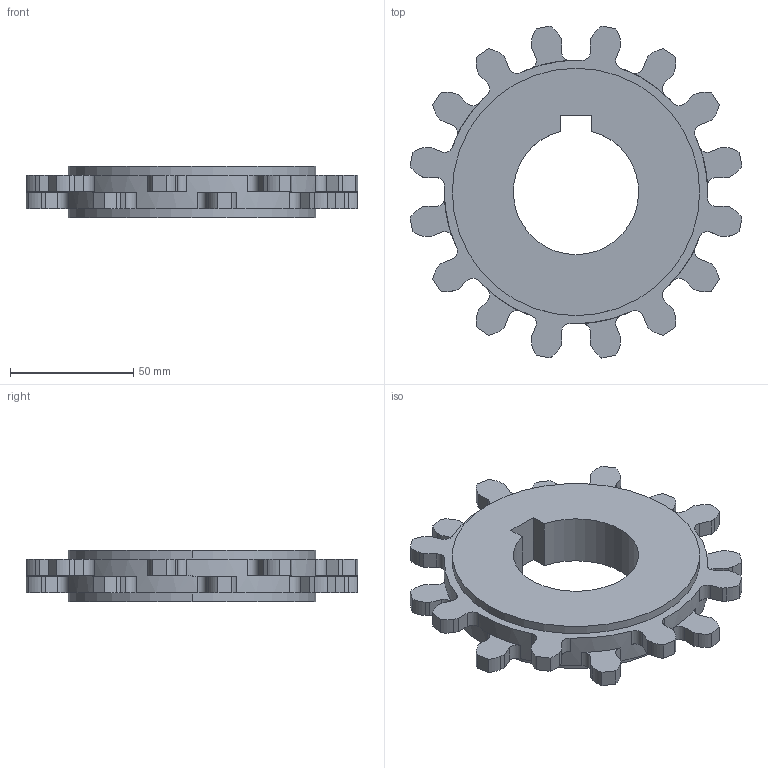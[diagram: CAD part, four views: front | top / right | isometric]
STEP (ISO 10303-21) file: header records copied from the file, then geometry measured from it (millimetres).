
FILE_DESCRIPTION((''),'2;1');
FILE_NAME('S2700_SPROCKET_52_RND','2008-12-12T',('jmumphre'),(''),'PRO/ENGINEER BY PARAMETRIC TECHNOLOGY CORPORATION, 2008150','PRO/ENGINEER BY PARAMETRIC TECHNOLOGY CORPORATION, 2008150','');
FILE_SCHEMA(('CONFIG_CONTROL_DESIGN'));
Length unit declared in the file: inch
Products named in the file (1): S2700_SPROCKET_52_RND
Bounding box: 134.6 x 134.6 x 20.83 mm (x, y, z)
Volume: 152295.8 mm3; surface area: 31923.5 mm2
Topology: 1 solids, 1 shells, 174 faces, 510 edges, 340 vertices
Faces by surface type: plane 103, cylinder 71
Entity records: 5872 total; most frequent: DIRECTION 1032, CARTESIAN_POINT 1024, ORIENTED_EDGE 1020, EDGE_CURVE 510, AXIS2_PLACEMENT_3D 348, VERTEX_POINT 340, VECTOR 336, LINE 336
